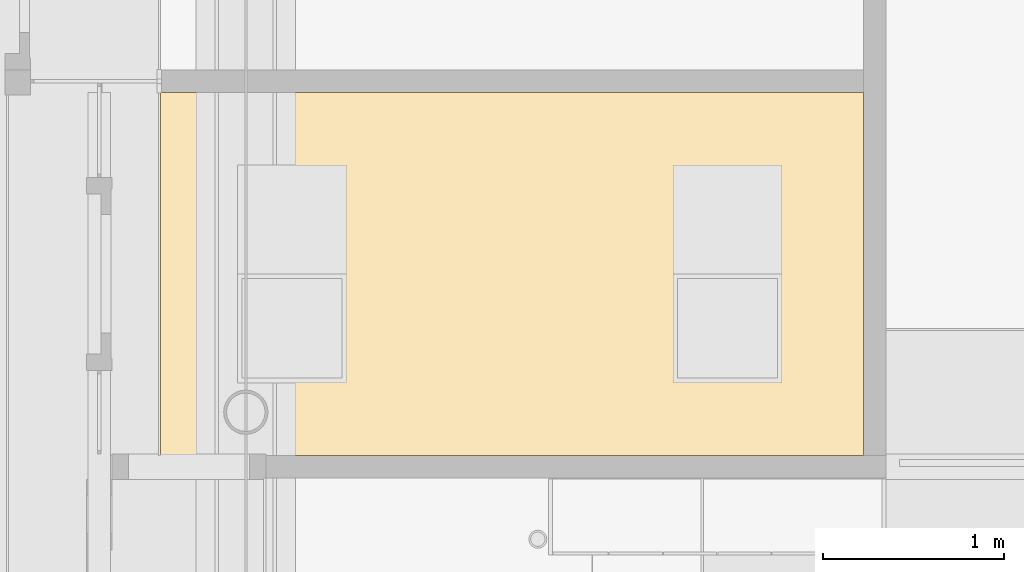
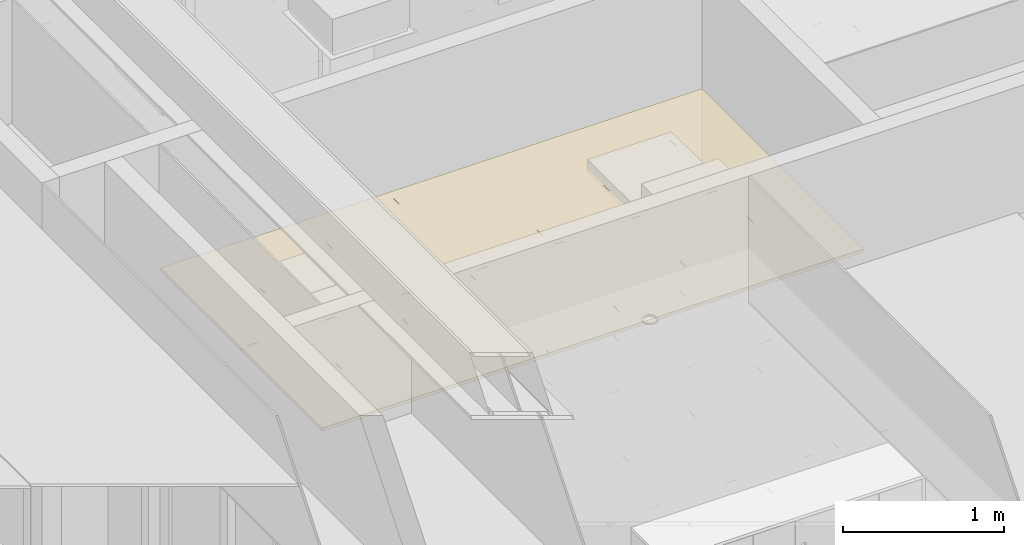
# One storey, part 174 of 347: 1 covering.
"""IFC2X3 building model written with IfcOpenShell, lengths in millimetres."""

from ifc_helpers import new_model, entity, si_unit, converted_unit, derived_unit, money_unit, direction, frame, origin_with_axes, place, context, subcontext, project, spatial, faceted_brep, type_object, element, save


model = new_model("IFC2X3")

# Units and contexts
model_context = context("Model", 3, precision=0.01, world=origin_with_axes(), true_north=direction((0.0, 1.0)))
plan_context = context("Plan", 3, precision=0.01, world=origin_with_axes(), true_north=direction((0.0, 1.0)))
body_context = subcontext(model_context, "Body", "Model", "MODEL_VIEW")
ifc_project = project(units=[si_unit("LENGTHUNIT", "METRE", prefix="MILLI"), si_unit("AREAUNIT", "SQUARE_METRE"), si_unit("VOLUMEUNIT", "CUBIC_METRE"), converted_unit("PLANEANGLEUNIT", "DEGREE", entity("IfcPlaneAngleMeasure", 0.0174532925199), si_unit("PLANEANGLEUNIT", "RADIAN"), dimensions=[0, 0, 0, 0, 0, 0, 0]), money_unit("EUR"), converted_unit("TIMEUNIT", "Year", entity("IfcTimeMeasure", 31556926.0), si_unit("TIMEUNIT", "SECOND"), dimensions=[0, 0, 1, 0, 0, 0, 0]), si_unit("MASSUNIT", "GRAM", prefix="KILO"), si_unit("THERMODYNAMICTEMPERATUREUNIT", "DEGREE_CELSIUS"), si_unit("LUMINOUSINTENSITYUNIT", "LUMEN"), si_unit("ENERGYUNIT", "JOULE", prefix="MEGA"), derived_unit("THERMALCONDUCTANCEUNIT", [(si_unit("POWERUNIT", "WATT"), 1), (si_unit("LENGTHUNIT", "METRE"), -1), (si_unit("THERMODYNAMICTEMPERATUREUNIT", "KELVIN"), -1)]), derived_unit("SPECIFICHEATCAPACITYUNIT", [(si_unit("ENERGYUNIT", "JOULE"), 1), (si_unit("MASSUNIT", "GRAM", prefix="KILO"), -1), (si_unit("THERMODYNAMICTEMPERATUREUNIT", "KELVIN"), -1)]), derived_unit("MASSDENSITYUNIT", [(si_unit("MASSUNIT", "GRAM", prefix="KILO"), 1), (si_unit("VOLUMEUNIT", "CUBIC_METRE"), -1)])], contexts=[model_context, plan_context])

# Site, building, storey
site_placement = place(None, origin_with_axes())
site = spatial("IfcSite", under=ifc_project, at=site_placement, Name="Site", CompositionType="ELEMENT")
building_placement = place(site_placement, origin_with_axes())
building = spatial("IfcBuilding", under=site, at=building_placement, Name="Naam gebouw", CompositionType="ELEMENT")
storey_placement = place(building_placement, origin_with_axes())
storey = spatial("IfcBuildingStorey", under=building, at=storey_placement, Name="begane grond", CompositionType="ELEMENT", Elevation=0.0)

# Covering
covering_type = type_object("IfcCoveringType", Name="Ceiling Editor INT_v2.01", PredefinedType="CEILING")
covering_placement = place(storey_placement, frame((47950.0, 39087.5, 2600.0), z_axis=(0.0, 0.0, 1.0), x_axis=(1.0, 0.0, 0.0)))
element("IfcCovering", 1, at=covering_placement, inside=storey, type_object=covering_type, Name="45 Plafondafwerkingen_77 garderobe", PredefinedType="CEILING", context=body_context, shape_type="Brep", body=[
    faceted_brep([(0.0, 0.0, 20.0), (0.0, 500.0, 20.0), (0.0, 999.9, 20.0), (-449.9, 999.9, 20.0), (-449.9, 0.0, 20.0), (0.0, 0.0, 0.0), (0.0, 500.0, 0.0), (0.0, 999.9, 0.0), (-449.9, 999.9, 0.0), (-449.9, 0.0, 0.0)], [[[0, 1, 2, 3, 4]], [[0, 5, 6, 1]], [[2, 1, 6, 7]], [[7, 8, 3, 2]], [[4, 3, 8, 9]], [[4, 9, 5, 0]], [[6, 5, 9, 8, 7]]]),
    faceted_brep([(-449.9, 2000.0, 0.0), (-449.9, 1000.1, 0.0), (-449.9, 1000.1, 20.0), (-449.9, 2000.0, 20.0), (0.0, 2000.0, 0.0), (0.0, 1500.0, 0.0), (0.0, 1000.1, 0.0), (0.0, 1000.1, 20.0), (0.0, 1500.0, 20.0), (0.0, 2000.0, 20.0)], [[[0, 1, 2, 3]], [[4, 5, 6, 1, 0]], [[7, 2, 1, 6]], [[8, 9, 3, 2, 7]], [[3, 9, 4, 0]], [[8, 5, 4, 9]], [[7, 6, 5, 8]]]),
    faceted_brep([(-968.74999921, 0.0, 20.0), (-450.1, 0.0, 20.0), (-450.1, 999.9, 20.0), (-1049.9, 999.9, 20.0), (-1049.9, 0.0, 20.0), (-968.74999921, 0.0, 0.0), (-450.1, 0.0, 0.0), (-450.1, 999.9, 0.0), (-1049.9, 999.9, 0.0), (-1049.9, 0.0, 0.0)], [[[0, 1, 2, 3, 4]], [[0, 5, 6, 1]], [[6, 7, 2, 1]], [[3, 2, 7, 8]], [[4, 3, 8, 9]], [[4, 9, 5, 0]], [[5, 9, 8, 7, 6]]]),
    faceted_brep([(-1049.9, 2000.0, 0.0), (-1049.9, 1000.1, 0.0), (-1049.9, 1000.1, 20.0), (-1049.9, 2000.0, 20.0), (-968.74999921, 2000.0, 0.0), (-450.1, 2000.0, 0.0), (-450.1, 1000.1, 0.0), (-450.1, 1000.1, 20.0), (-968.74999921, 2000.0, 20.0), (-450.1, 2000.0, 20.0)], [[[0, 1, 2, 3]], [[4, 5, 6, 1, 0]], [[7, 2, 1, 6]], [[8, 3, 2, 7, 9]], [[3, 8, 4, 0]], [[9, 5, 4, 8]], [[9, 7, 6, 5]]]),
    faceted_brep([(-1050.1, 0.0, 20.0), (-1050.1, 999.9, 20.0), (-1649.9, 999.9, 20.0), (-1649.9, 0.0, 20.0), (-1050.1, 0.0, 0.0), (-1050.1, 999.9, 0.0), (-1649.9, 999.9, 0.0), (-1649.9, 0.0, 0.0)], [[[0, 1, 2, 3]], [[4, 5, 1, 0]], [[2, 1, 5, 6]], [[3, 2, 6, 7]], [[3, 7, 4, 0]], [[7, 6, 5, 4]]]),
    faceted_brep([(-1649.9, 2000.0, 0.0), (-1649.9, 1000.1, 0.0), (-1649.9, 1000.1, 20.0), (-1649.9, 2000.0, 20.0), (-1050.1, 2000.0, 0.0), (-1050.1, 1000.1, 0.0), (-1050.1, 1000.1, 20.0), (-1050.1, 2000.0, 20.0)], [[[0, 1, 2, 3]], [[4, 5, 1, 0]], [[6, 2, 1, 5]], [[3, 2, 6, 7]], [[3, 7, 4, 0]], [[7, 6, 5, 4]]]),
    faceted_brep([(-1937.49999842, 0.0, 20.0), (-1650.1, 0.0, 20.0), (-1650.1, 999.9, 20.0), (-2249.9, 999.9, 20.0), (-2249.9, 0.0, 20.0), (-1937.49999842, 0.0, 0.0), (-1650.1, 0.0, 0.0), (-1650.1, 999.9, 0.0), (-2249.9, 999.9, 0.0), (-2249.9, 0.0, 0.0)], [[[0, 1, 2, 3, 4]], [[0, 5, 6, 1]], [[6, 7, 2, 1]], [[3, 2, 7, 8]], [[4, 3, 8, 9]], [[4, 9, 5, 0]], [[5, 9, 8, 7, 6]]]),
    faceted_brep([(-2249.9, 2000.0, 0.0), (-2249.9, 1000.1, 0.0), (-2249.9, 1000.1, 20.0), (-2249.9, 2000.0, 20.0), (-1937.49999842, 2000.0, 0.0), (-1650.1, 2000.0, 0.0), (-1650.1, 1000.1, 0.0), (-1650.1, 1000.1, 20.0), (-1937.49999842, 2000.0, 20.0), (-1650.1, 2000.0, 20.0)], [[[0, 1, 2, 3]], [[4, 5, 6, 1, 0]], [[7, 2, 1, 6]], [[8, 3, 2, 7, 9]], [[3, 8, 4, 0]], [[9, 5, 4, 8]], [[9, 7, 6, 5]]]),
    faceted_brep([(-2250.1, 0.0, 20.0), (-2250.1, 999.9, 20.0), (-2849.9, 999.9, 20.0), (-2849.9, 0.0, 20.0), (-2250.1, 0.0, 0.0), (-2250.1, 999.9, 0.0), (-2849.9, 999.9, 0.0), (-2849.9, 0.0, 0.0)], [[[0, 1, 2, 3]], [[4, 5, 1, 0]], [[2, 1, 5, 6]], [[3, 2, 6, 7]], [[3, 7, 4, 0]], [[7, 6, 5, 4]]]),
    faceted_brep([(-2849.9, 2000.0, 0.0), (-2849.9, 1000.1, 0.0), (-2849.9, 1000.1, 20.0), (-2849.9, 2000.0, 20.0), (-2250.1, 2000.0, 0.0), (-2250.1, 1000.1, 0.0), (-2250.1, 1000.1, 20.0), (-2250.1, 2000.0, 20.0)], [[[0, 1, 2, 3]], [[4, 5, 1, 0]], [[6, 2, 1, 5]], [[3, 2, 6, 7]], [[3, 7, 4, 0]], [[7, 6, 5, 4]]]),
    faceted_brep([(-2906.24999763, 0.0, 20.0), (-2850.1, 0.0, 20.0), (-2850.1, 999.9, 20.0), (-3449.9, 999.9, 20.0), (-3449.9, 0.0, 20.0), (-2906.24999763, 0.0, 0.0), (-2850.1, 0.0, 0.0), (-2850.1, 999.9, 0.0), (-3449.9, 999.9, 0.0), (-3449.9, 0.0, 0.0)], [[[0, 1, 2, 3, 4]], [[0, 5, 6, 1]], [[6, 7, 2, 1]], [[3, 2, 7, 8]], [[4, 3, 8, 9]], [[4, 9, 5, 0]], [[5, 9, 8, 7, 6]]]),
    faceted_brep([(-3449.9, 2000.0, 0.0), (-3449.9, 1000.1, 0.0), (-3449.9, 1000.1, 20.0), (-3449.9, 2000.0, 20.0), (-2906.24999763, 2000.0, 0.0), (-2850.1, 2000.0, 0.0), (-2850.1, 1000.1, 0.0), (-2850.1, 1000.1, 20.0), (-2906.24999763, 2000.0, 20.0), (-2850.1, 2000.0, 20.0)], [[[0, 1, 2, 3]], [[4, 5, 6, 1, 0]], [[7, 2, 1, 6]], [[8, 3, 2, 7, 9]], [[3, 8, 4, 0]], [[9, 5, 4, 8]], [[9, 7, 6, 5]]]),
    faceted_brep([(-3874.99999684, 500.0, 20.0), (-3874.99999684, 0.0, 20.0), (-3450.1, 0.0, 20.0), (-3450.1, 999.9, 20.0), (-3874.99999684, 999.9, 20.0), (-3874.99999684, 500.0, 0.0), (-3874.99999684, 0.0, 0.0), (-3450.1, 0.0, 0.0), (-3450.1, 999.9, 0.0), (-3874.99999684, 999.9, 0.0)], [[[0, 1, 2, 3, 4]], [[0, 5, 6, 1]], [[1, 6, 7, 2]], [[7, 8, 3, 2]], [[4, 3, 8, 9]], [[4, 9, 5, 0]], [[6, 5, 9, 8, 7]]]),
    faceted_brep([(-3874.99999684, 1500.0, 20.0), (-3874.99999684, 1000.1, 20.0), (-3450.1, 1000.1, 20.0), (-3450.1, 2000.0, 20.0), (-3874.99999684, 2000.0, 20.0), (-3874.99999684, 1500.0, 0.0), (-3874.99999684, 1000.1, 0.0), (-3450.1, 1000.1, 0.0), (-3450.1, 2000.0, 0.0), (-3874.99999684, 2000.0, 0.0)], [[[0, 1, 2, 3, 4]], [[0, 5, 6, 1]], [[6, 7, 2, 1]], [[3, 2, 7, 8]], [[3, 8, 9, 4]], [[4, 9, 5, 0]], [[5, 9, 8, 7, 6]]]),
    faceted_brep([(-3874.99999684, 0.0, 0.0), (-3874.99999684, 987.5, 0.0), (-3874.99999684, 1000.0, 0.0), (-3874.99999684, 1000.0, -5.0), (-3874.99999684, 987.5, -5.0), (-3874.99999684, 0.0, -5.0), (-2237.5, 0.0, 0.0), (-1662.5, 0.0, 0.0), (-1637.5, 0.0, 0.0), (-1062.5, 0.0, 0.0), (-1037.5, 0.0, 0.0), (-462.5, 0.0, 0.0), (-437.5, 0.0, 0.0), (0.0, 0.0, 0.0), (0.0, 987.5, 0.0), (0.0, 1000.0, 0.0), (0.0, 1012.5, 0.0), (0.0, 2000.0, 0.0), (-437.5, 2000.0, 0.0), (-462.5, 2000.0, 0.0), (-1037.5, 2000.0, 0.0), (-1062.5, 2000.0, 0.0), (-1637.5, 2000.0, 0.0), (-1662.5, 2000.0, 0.0), (-2237.5, 2000.0, 0.0), (-2262.5, 2000.0, 0.0), (-2837.5, 2000.0, 0.0), (-2862.5, 2000.0, 0.0), (-3437.5, 2000.0, 0.0), (-3462.5, 2000.0, 0.0), (-3874.99999684, 2000.0, 0.0), (-3874.99999684, 1012.5, 0.0), (-3462.5, 0.0, 0.0), (-3437.5, 0.0, 0.0), (-2862.5, 0.0, 0.0), (-2837.5, 0.0, 0.0), (-2262.5, 0.0, 0.0), (-25.0, 987.5, 0.0), (-25.0, 25.0, 0.0), (-437.5, 25.0, 0.0), (-437.5, 987.5, 0.0), (-437.5, 1975.0, 0.0), (-25.0, 1975.0, 0.0), (-25.0, 1012.5, 0.0), (-437.5, 1012.5, 0.0), (-1037.5, 1975.0, 0.0), (-462.5, 1975.0, 0.0), (-462.5, 1012.5, 0.0), (-1037.5, 1012.5, 0.0), (-1637.5, 1975.0, 0.0), (-1062.5, 1975.0, 0.0), (-1062.5, 1012.5, 0.0), (-1637.5, 1012.5, 0.0), (-2237.5, 1975.0, 0.0), (-1662.5, 1975.0, 0.0), (-1662.5, 1012.5, 0.0), (-2237.5, 1012.5, 0.0), (-2837.5, 1975.0, 0.0), (-2262.5, 1975.0, 0.0), (-2262.5, 1012.5, 0.0), (-2837.5, 1012.5, 0.0), (-3437.5, 1975.0, 0.0), (-2862.5, 1975.0, 0.0), (-2862.5, 1012.5, 0.0), (-3437.5, 1012.5, 0.0), (-3849.99999684, 1012.5, 0.0), (-3849.99999684, 1975.0, 0.0), (-3462.5, 1975.0, 0.0), (-3462.5, 1012.5, 0.0), (-3849.99999684, 25.0, 0.0), (-3849.99999684, 987.5, 0.0), (-3462.5, 987.5, 0.0), (-3462.5, 25.0, 0.0), (-2837.5, 25.0, 0.0), (-2837.5, 987.5, 0.0), (-2262.5, 987.5, 0.0), (-2262.5, 25.0, 0.0), (-2862.5, 25.0, 0.0), (-3437.5, 25.0, 0.0), (-3437.5, 987.5, 0.0), (-2862.5, 987.5, 0.0), (-1037.5, 25.0, 0.0), (-1037.5, 987.5, 0.0), (-462.5, 987.5, 0.0), (-462.5, 25.0, 0.0), (-1637.5, 25.0, 0.0), (-1637.5, 987.5, 0.0), (-1062.5, 987.5, 0.0), (-1062.5, 25.0, 0.0), (-1662.5, 25.0, 0.0), (-2237.5, 25.0, 0.0), (-2237.5, 987.5, 0.0), (-1662.5, 987.5, 0.0), (-3874.99999684, 1012.5, -5.0), (-3874.99999684, 2000.0, -5.0), (-1662.5, 0.0, -5.0), (-2237.5, 0.0, -5.0), (-2262.5, 0.0, -5.0), (-2837.5, 0.0, -5.0), (-2862.5, 0.0, -5.0), (-3437.5, 0.0, -5.0), (-3462.5, 0.0, -5.0), (-3462.5, 2000.0, -5.0), (-3437.5, 2000.0, -5.0), (-2862.5, 2000.0, -5.0), (-2837.5, 2000.0, -5.0), (-2262.5, 2000.0, -5.0), (-2237.5, 2000.0, -5.0), (-1662.5, 2000.0, -5.0), (-1637.5, 2000.0, -5.0), (-1062.5, 2000.0, -5.0), (-1037.5, 2000.0, -5.0), (-462.5, 2000.0, -5.0), (-437.5, 2000.0, -5.0), (0.0, 2000.0, -5.0), (0.0, 1012.5, -5.0), (0.0, 1000.0, -5.0), (0.0, 987.5, -5.0), (0.0, 0.0, -5.0), (-437.5, 0.0, -5.0), (-462.5, 0.0, -5.0), (-1037.5, 0.0, -5.0), (-1062.5, 0.0, -5.0), (-1637.5, 0.0, -5.0), (-25.0, 987.5, -5.0), (-437.5, 987.5, -5.0), (-437.5, 25.0, -5.0), (-25.0, 25.0, -5.0), (-437.5, 1975.0, -5.0), (-437.5, 1012.5, -5.0), (-25.0, 1012.5, -5.0), (-25.0, 1975.0, -5.0), (-1037.5, 1975.0, -5.0), (-1037.5, 1012.5, -5.0), (-462.5, 1012.5, -5.0), (-462.5, 1975.0, -5.0), (-1637.5, 1975.0, -5.0), (-1637.5, 1012.5, -5.0), (-1062.5, 1012.5, -5.0), (-1062.5, 1975.0, -5.0), (-2237.5, 1975.0, -5.0), (-2237.5, 1012.5, -5.0), (-1662.5, 1012.5, -5.0), (-1662.5, 1975.0, -5.0), (-2837.5, 1975.0, -5.0), (-2837.5, 1012.5, -5.0), (-2262.5, 1012.5, -5.0), (-2262.5, 1975.0, -5.0), (-3437.5, 1975.0, -5.0), (-3437.5, 1012.5, -5.0), (-2862.5, 1012.5, -5.0), (-2862.5, 1975.0, -5.0), (-3849.99999684, 1975.0, -5.0), (-3849.99999684, 1012.5, -5.0), (-3462.5, 1012.5, -5.0), (-3462.5, 1975.0, -5.0), (-3849.99999684, 25.0, -5.0), (-3462.5, 25.0, -5.0), (-3462.5, 987.5, -5.0), (-3849.99999684, 987.5, -5.0), (-2837.5, 25.0, -5.0), (-2262.5, 25.0, -5.0), (-2262.5, 987.5, -5.0), (-2837.5, 987.5, -5.0), (-3437.5, 25.0, -5.0), (-2862.5, 25.0, -5.0), (-2862.5, 987.5, -5.0), (-3437.5, 987.5, -5.0), (-1037.5, 25.0, -5.0), (-462.5, 25.0, -5.0), (-462.5, 987.5, -5.0), (-1037.5, 987.5, -5.0), (-1637.5, 25.0, -5.0), (-1062.5, 25.0, -5.0), (-1062.5, 987.5, -5.0), (-1637.5, 987.5, -5.0), (-2237.5, 25.0, -5.0), (-1662.5, 25.0, -5.0), (-1662.5, 987.5, -5.0), (-2237.5, 987.5, -5.0)], [[[0, 1, 2, 3, 4, 5]], [[6, 7, 8, 9, 10, 11, 12, 13, 14, 15, 16, 17, 18, 19, 20, 21, 22, 23, 24, 25, 26, 27, 28, 29, 30, 31, 2, 1, 0, 32, 33, 34, 35, 36], [37, 38, 39, 40], [41, 42, 43, 44], [45, 46, 47, 48], [49, 50, 51, 52], [53, 54, 55, 56], [57, 58, 59, 60], [61, 62, 63, 64], [65, 66, 67, 68], [69, 70, 71, 72], [73, 74, 75, 76], [77, 78, 79, 80], [81, 82, 83, 84], [85, 86, 87, 88], [89, 90, 91, 92]], [[93, 3, 2, 31, 30, 94]], [[95, 96, 97, 98, 99, 100, 101, 5, 4, 3, 93, 94, 102, 103, 104, 105, 106, 107, 108, 109, 110, 111, 112, 113, 114, 115, 116, 117, 118, 119, 120, 121, 122, 123], [124, 125, 126, 127], [128, 129, 130, 131], [132, 133, 134, 135], [136, 137, 138, 139], [140, 141, 142, 143], [144, 145, 146, 147], [148, 149, 150, 151], [152, 153, 154, 155], [156, 157, 158, 159], [160, 161, 162, 163], [164, 165, 166, 167], [168, 169, 170, 171], [172, 173, 174, 175], [176, 177, 178, 179]], [[95, 123, 122, 121, 120, 119, 118, 13, 12, 11, 10, 9, 8, 7, 6, 36, 35, 34, 33, 32, 0, 5, 101, 100, 99, 98, 97, 96]], [[14, 13, 118, 117, 116, 15]], [[17, 16, 15, 116, 115, 114]], [[30, 29, 28, 27, 26, 25, 24, 23, 22, 21, 20, 19, 18, 17, 114, 113, 112, 111, 110, 109, 108, 107, 106, 105, 104, 103, 102, 94]], [[124, 127, 38, 37]], [[127, 126, 39, 38]], [[126, 125, 40, 39]], [[37, 40, 125, 124]], [[128, 131, 42, 41]], [[131, 130, 43, 42]], [[130, 129, 44, 43]], [[41, 44, 129, 128]], [[132, 135, 46, 45]], [[135, 134, 47, 46]], [[47, 134, 133, 48]], [[45, 48, 133, 132]], [[136, 139, 50, 49]], [[139, 138, 51, 50]], [[51, 138, 137, 52]], [[49, 52, 137, 136]], [[140, 143, 54, 53]], [[143, 142, 55, 54]], [[55, 142, 141, 56]], [[53, 56, 141, 140]], [[144, 147, 58, 57]], [[147, 146, 59, 58]], [[59, 146, 145, 60]], [[57, 60, 145, 144]], [[148, 151, 62, 61]], [[151, 150, 63, 62]], [[63, 150, 149, 64]], [[61, 64, 149, 148]], [[65, 153, 152, 66]], [[152, 155, 67, 66]], [[155, 154, 68, 67]], [[65, 68, 154, 153]], [[156, 159, 70, 69]], [[159, 158, 71, 70]], [[72, 71, 158, 157]], [[69, 72, 157, 156]], [[160, 163, 74, 73]], [[162, 75, 74, 163]], [[76, 75, 162, 161]], [[73, 76, 161, 160]], [[77, 165, 164, 78]], [[164, 167, 79, 78]], [[166, 80, 79, 167]], [[77, 80, 166, 165]], [[168, 171, 82, 81]], [[170, 83, 82, 171]], [[84, 83, 170, 169]], [[81, 84, 169, 168]], [[172, 175, 86, 85]], [[174, 87, 86, 175]], [[88, 87, 174, 173]], [[85, 88, 173, 172]], [[89, 177, 176, 90]], [[176, 179, 91, 90]], [[178, 92, 91, 179]], [[89, 92, 178, 177]]]),
])

save(model, "model.ifc")
